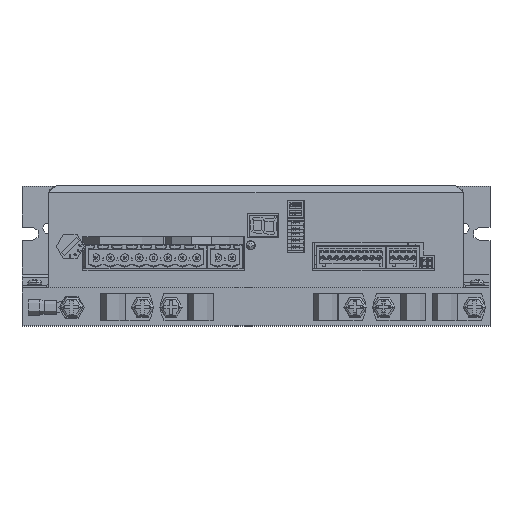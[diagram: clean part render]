
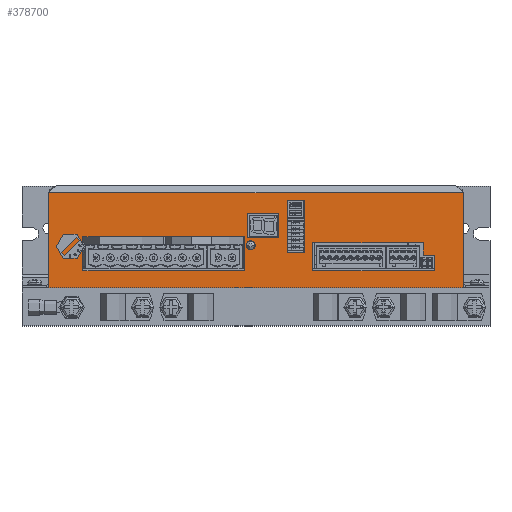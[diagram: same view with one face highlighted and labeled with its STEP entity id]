
A CAD part, top view. The second image highlights one B-rep face of the part: STEP entity #378700.
In plain terms, the highlighted planar face has unit normal (0, 0, 1).
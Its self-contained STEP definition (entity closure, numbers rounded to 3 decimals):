
#372592=CARTESIAN_POINT('',(73.,33.5,56.5));
#372597=DIRECTION('',(1.,0.,0.));
#372598=VECTOR('',#372597,146.);
#372599=CARTESIAN_POINT('',(-73.,33.5,56.5));
#372600=LINE('',#372599,#372598);
#373756=DIRECTION('',(1.,0.,0.));
#373757=VECTOR('',#373756,146.);
#373758=CARTESIAN_POINT('',(-73.,-1.,56.5));
#373759=LINE('',#373758,#373757);
#373763=DIRECTION('',(0.,1.,0.));
#373764=VECTOR('',#373763,34.5);
#373765=CARTESIAN_POINT('',(-73.,-1.,56.5));
#373766=LINE('',#373765,#373764);
#373770=DIRECTION('',(0.,-1.,0.));
#373771=VECTOR('',#373770,12.);
#373772=CARTESIAN_POINT('',(-4.,18.,56.5));
#373773=LINE('',#373772,#373771);
#373777=DIRECTION('',(1.,0.,0.));
#373778=VECTOR('',#373777,57.);
#373779=CARTESIAN_POINT('',(-61.,18.,56.5));
#373780=LINE('',#373779,#373778);
#373784=DIRECTION('',(0.,1.,0.));
#373785=VECTOR('',#373784,12.);
#373786=CARTESIAN_POINT('',(-61.,6.,56.5));
#373787=LINE('',#373786,#373785);
#373791=DIRECTION('',(-1.,0.,0.));
#373792=VECTOR('',#373791,57.);
#373793=CARTESIAN_POINT('',(-4.,6.,56.5));
#373794=LINE('',#373793,#373792);
#373798=DIRECTION('',(1.,0.,0.));
#373799=VECTOR('',#373798,4.);
#373800=CARTESIAN_POINT('',(59.,11.5,56.5));
#373801=LINE('',#373800,#373799);
#373805=DIRECTION('',(0.,-1.,0.));
#373806=VECTOR('',#373805,4.5);
#373807=CARTESIAN_POINT('',(59.,16.,56.5));
#373808=LINE('',#373807,#373806);
#373812=DIRECTION('',(1.,0.,0.));
#373813=VECTOR('',#373812,39.);
#373814=CARTESIAN_POINT('',(20.,16.,56.5));
#373815=LINE('',#373814,#373813);
#373819=DIRECTION('',(0.,1.,0.));
#373820=VECTOR('',#373819,10.);
#373821=CARTESIAN_POINT('',(20.,6.,56.5));
#373822=LINE('',#373821,#373820);
#373826=DIRECTION('',(-1.,0.,0.));
#373827=VECTOR('',#373826,39.);
#373828=CARTESIAN_POINT('',(59.,6.,56.5));
#373829=LINE('',#373828,#373827);
#373833=DIRECTION('',(-1.,0.,0.));
#373834=VECTOR('',#373833,4.);
#373835=CARTESIAN_POINT('',(63.,6.,56.5));
#373836=LINE('',#373835,#373834);
#373840=DIRECTION('',(0.,-1.,0.));
#373841=VECTOR('',#373840,5.5);
#373842=CARTESIAN_POINT('',(63.,11.5,56.5));
#373843=LINE('',#373842,#373841);
#373847=DIRECTION('',(1.,0.,0.));
#373848=VECTOR('',#373847,11.);
#373849=CARTESIAN_POINT('',(-3.,26.3,56.5));
#373850=LINE('',#373849,#373848);
#373854=DIRECTION('',(0.,1.,0.));
#373855=VECTOR('',#373854,8.5);
#373856=CARTESIAN_POINT('',(-3.,17.8,56.5));
#373857=LINE('',#373856,#373855);
#373861=DIRECTION('',(-1.,0.,0.));
#373862=VECTOR('',#373861,11.);
#373863=CARTESIAN_POINT('',(8.,17.8,56.5));
#373864=LINE('',#373863,#373862);
#373868=DIRECTION('',(0.,-1.,0.));
#373869=VECTOR('',#373868,8.5);
#373870=CARTESIAN_POINT('',(8.,26.3,56.5));
#373871=LINE('',#373870,#373869);
#373875=DIRECTION('',(1.,0.,0.));
#373876=VECTOR('',#373875,6.);
#373877=CARTESIAN_POINT('',(11.,30.9,56.5));
#373878=LINE('',#373877,#373876);
#373882=DIRECTION('',(0.,1.,0.));
#373883=VECTOR('',#373882,18.4);
#373884=CARTESIAN_POINT('',(11.,12.5,56.5));
#373885=LINE('',#373884,#373883);
#373889=DIRECTION('',(-1.,0.,0.));
#373890=VECTOR('',#373889,6.);
#373891=CARTESIAN_POINT('',(17.,12.5,56.5));
#373892=LINE('',#373891,#373890);
#373896=DIRECTION('',(0.,-1.,0.));
#373897=VECTOR('',#373896,18.4);
#373898=CARTESIAN_POINT('',(17.,30.9,56.5));
#373899=LINE('',#373898,#373897);
#373903=CARTESIAN_POINT('',(-1.9,15.,56.5));
#373904=DIRECTION('',(0.,0.,1.));
#373905=DIRECTION('',(-1.,0.,0.));
#373906=AXIS2_PLACEMENT_3D('',#373903,#373904,#373905);
#373911=CARTESIAN_POINT('',(-1.9,15.,56.5));
#373912=DIRECTION('',(0.,0.,1.));
#373913=DIRECTION('',(1.,0.,0.));
#373914=AXIS2_PLACEMENT_3D('',#373911,#373912,#373913);
#373933=DIRECTION('',(0.,1.,0.));
#373934=VECTOR('',#373933,34.5);
#373935=CARTESIAN_POINT('',(73.,-1.,56.5));
#373936=LINE('',#373935,#373934);
#376415=VERTEX_POINT('',#372592);
#376416=CARTESIAN_POINT('',(-73.,33.5,56.5));
#376417=VERTEX_POINT('',#376416);
#376568=CARTESIAN_POINT('',(20.,16.,56.5));
#376569=CARTESIAN_POINT('',(59.,16.,56.5));
#376570=VERTEX_POINT('',#376568);
#376571=VERTEX_POINT('',#376569);
#376572=CARTESIAN_POINT('',(20.,6.,56.5));
#376573=VERTEX_POINT('',#376572);
#376574=CARTESIAN_POINT('',(-4.,18.,56.5));
#376575=CARTESIAN_POINT('',(-4.,6.,56.5));
#376576=VERTEX_POINT('',#376574);
#376577=VERTEX_POINT('',#376575);
#376578=CARTESIAN_POINT('',(-61.,6.,56.5));
#376579=VERTEX_POINT('',#376578);
#376592=CARTESIAN_POINT('',(59.,11.5,56.5));
#376593=CARTESIAN_POINT('',(63.,11.5,56.5));
#376594=VERTEX_POINT('',#376592);
#376595=VERTEX_POINT('',#376593);
#376596=CARTESIAN_POINT('',(63.,6.,56.5));
#376597=VERTEX_POINT('',#376596);
#376598=CARTESIAN_POINT('',(59.,6.,56.5));
#376599=VERTEX_POINT('',#376598);
#376616=CARTESIAN_POINT('',(-3.,26.3,56.5));
#376617=CARTESIAN_POINT('',(8.,26.3,56.5));
#376618=VERTEX_POINT('',#376616);
#376619=VERTEX_POINT('',#376617);
#376620=CARTESIAN_POINT('',(8.,17.8,56.5));
#376621=VERTEX_POINT('',#376620);
#376622=CARTESIAN_POINT('',(-3.,17.8,56.5));
#376623=VERTEX_POINT('',#376622);
#376624=CARTESIAN_POINT('',(11.,30.9,56.5));
#376625=CARTESIAN_POINT('',(17.,30.9,56.5));
#376626=VERTEX_POINT('',#376624);
#376627=VERTEX_POINT('',#376625);
#376628=CARTESIAN_POINT('',(17.,12.5,56.5));
#376629=VERTEX_POINT('',#376628);
#376630=CARTESIAN_POINT('',(11.,12.5,56.5));
#376631=VERTEX_POINT('',#376630);
#376652=CARTESIAN_POINT('',(-73.,-1.,56.5));
#376653=CARTESIAN_POINT('',(73.,-1.,56.5));
#376654=VERTEX_POINT('',#376652);
#376655=VERTEX_POINT('',#376653);
#376656=CARTESIAN_POINT('',(-3.27,15.,56.5));
#376657=CARTESIAN_POINT('',(-0.53,15.,56.5));
#376658=VERTEX_POINT('',#376656);
#376659=VERTEX_POINT('',#376657);
#376664=CARTESIAN_POINT('',(-61.,18.,56.5));
#376665=VERTEX_POINT('',#376664);
#378635=CARTESIAN_POINT('',(-73.,0.,56.5));
#378636=DIRECTION('',(0.,0.,1.));
#378637=DIRECTION('',(1.,0.,0.));
#378638=AXIS2_PLACEMENT_3D('',#378635,#378636,#378637);
#378639=PLANE('',#378638);
#378641=ORIENTED_EDGE('',*,*,#378640,.F.);
#378643=ORIENTED_EDGE('',*,*,#378642,.F.);
#378644=ORIENTED_EDGE('',*,*,#378626,.T.);
#378645=ORIENTED_EDGE('',*,*,#377943,.T.);
#378646=EDGE_LOOP('',(#378641,#378643,#378644,#378645));
#378647=FACE_OUTER_BOUND('',#378646,.F.);
#378649=ORIENTED_EDGE('',*,*,#378648,.F.);
#378651=ORIENTED_EDGE('',*,*,#378650,.F.);
#378653=ORIENTED_EDGE('',*,*,#378652,.F.);
#378655=ORIENTED_EDGE('',*,*,#378654,.F.);
#378656=EDGE_LOOP('',(#378649,#378651,#378653,#378655));
#378657=FACE_BOUND('',#378656,.F.);
#378659=ORIENTED_EDGE('',*,*,#378658,.F.);
#378661=ORIENTED_EDGE('',*,*,#378660,.F.);
#378663=ORIENTED_EDGE('',*,*,#378662,.F.);
#378665=ORIENTED_EDGE('',*,*,#378664,.F.);
#378667=ORIENTED_EDGE('',*,*,#378666,.F.);
#378669=ORIENTED_EDGE('',*,*,#378668,.F.);
#378671=ORIENTED_EDGE('',*,*,#378670,.F.);
#378672=EDGE_LOOP('',(#378659,#378661,#378663,#378665,#378667,#378669,#378671));
#378673=FACE_BOUND('',#378672,.F.);
#378675=ORIENTED_EDGE('',*,*,#378674,.F.);
#378677=ORIENTED_EDGE('',*,*,#378676,.F.);
#378679=ORIENTED_EDGE('',*,*,#378678,.F.);
#378681=ORIENTED_EDGE('',*,*,#378680,.F.);
#378682=EDGE_LOOP('',(#378675,#378677,#378679,#378681));
#378683=FACE_BOUND('',#378682,.F.);
#378685=ORIENTED_EDGE('',*,*,#378684,.F.);
#378687=ORIENTED_EDGE('',*,*,#378686,.F.);
#378689=ORIENTED_EDGE('',*,*,#378688,.F.);
#378691=ORIENTED_EDGE('',*,*,#378690,.F.);
#378692=EDGE_LOOP('',(#378685,#378687,#378689,#378691));
#378693=FACE_BOUND('',#378692,.F.);
#378695=ORIENTED_EDGE('',*,*,#378694,.T.);
#378697=ORIENTED_EDGE('',*,*,#378696,.T.);
#378698=EDGE_LOOP('',(#378695,#378697));
#378699=FACE_BOUND('',#378698,.F.);
#378700=ADVANCED_FACE('',(#378647,#378657,#378673,#378683,#378693,#378699),
#378639,.T.);
#373907=CIRCLE('',#373906,1.37);
#373915=CIRCLE('',#373914,1.37);
#377943=EDGE_CURVE('',#376417,#376415,#372600,.T.);
#378626=EDGE_CURVE('',#376654,#376417,#373766,.T.);
#378640=EDGE_CURVE('',#376655,#376415,#373936,.T.);
#378642=EDGE_CURVE('',#376654,#376655,#373759,.T.);
#378648=EDGE_CURVE('',#376576,#376577,#373773,.T.);
#378650=EDGE_CURVE('',#376665,#376576,#373780,.T.);
#378652=EDGE_CURVE('',#376579,#376665,#373787,.T.);
#378654=EDGE_CURVE('',#376577,#376579,#373794,.T.);
#378658=EDGE_CURVE('',#376594,#376595,#373801,.T.);
#378660=EDGE_CURVE('',#376571,#376594,#373808,.T.);
#378662=EDGE_CURVE('',#376570,#376571,#373815,.T.);
#378664=EDGE_CURVE('',#376573,#376570,#373822,.T.);
#378666=EDGE_CURVE('',#376599,#376573,#373829,.T.);
#378668=EDGE_CURVE('',#376597,#376599,#373836,.T.);
#378670=EDGE_CURVE('',#376595,#376597,#373843,.T.);
#378674=EDGE_CURVE('',#376618,#376619,#373850,.T.);
#378676=EDGE_CURVE('',#376623,#376618,#373857,.T.);
#378678=EDGE_CURVE('',#376621,#376623,#373864,.T.);
#378680=EDGE_CURVE('',#376619,#376621,#373871,.T.);
#378684=EDGE_CURVE('',#376626,#376627,#373878,.T.);
#378686=EDGE_CURVE('',#376631,#376626,#373885,.T.);
#378688=EDGE_CURVE('',#376629,#376631,#373892,.T.);
#378690=EDGE_CURVE('',#376627,#376629,#373899,.T.);
#378694=EDGE_CURVE('',#376658,#376659,#373907,.T.);
#378696=EDGE_CURVE('',#376659,#376658,#373915,.T.);
